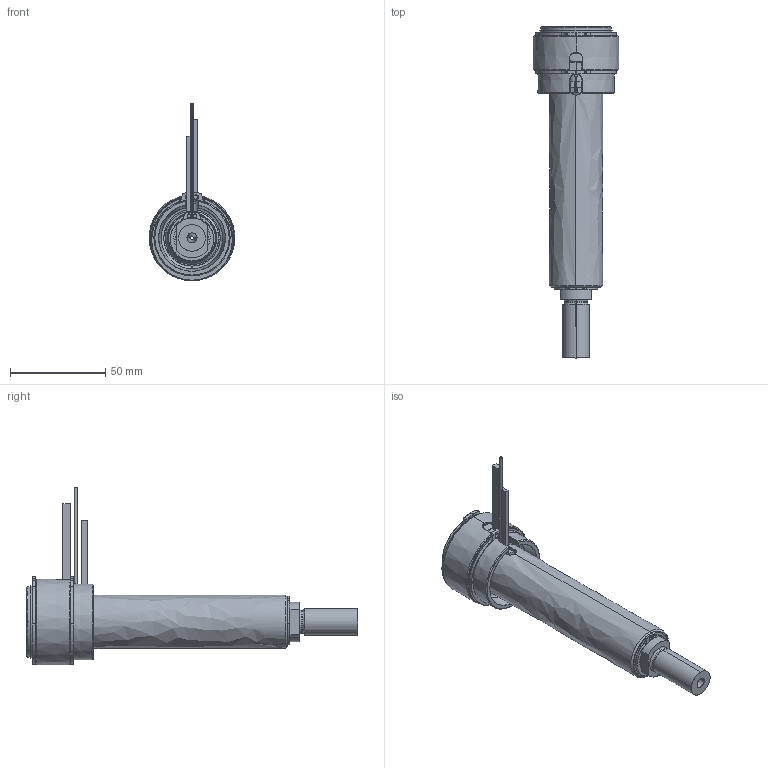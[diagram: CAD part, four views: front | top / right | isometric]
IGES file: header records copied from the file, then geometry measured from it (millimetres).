
Start section: SolidWorks IGES file using analytic representation for surfaces
Global section: file name: C:\Documents and Settings\ws-20\Desktop\TEM\UGBE4503-M-A-P-3 [Ød-2.0 P-25 ØC-09].IGS; native system: SolidWorks 2012; preprocessor: SolidWorks 2012; author: ws-20; date: 120412.153204; units: millimetre
Bounding box: 45 x 174.25 x 93.15 mm (x, y, z)
Surface area: 55911.6 mm2 (no closed solid volume)
Topology: 0 solids, 0 shells, 164 faces, 3087 edges, 3087 vertices
Faces by surface type: revolution 99, bspline 65
